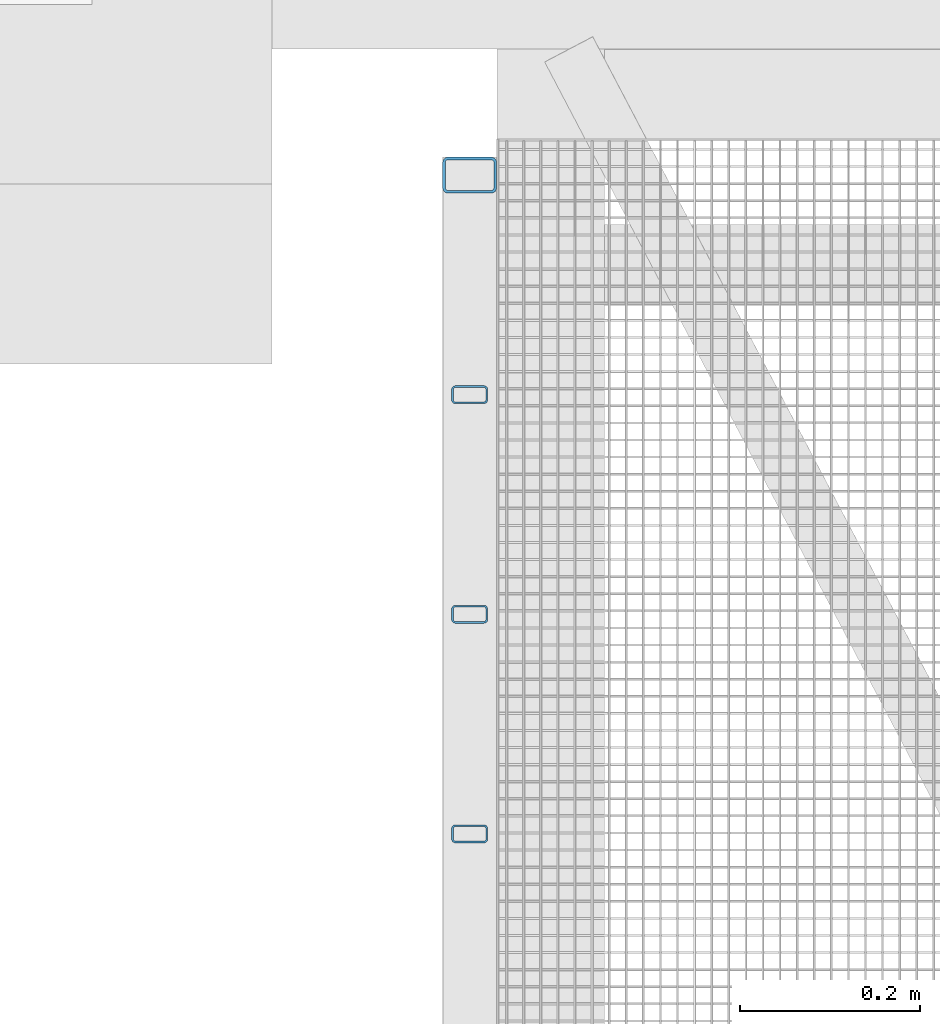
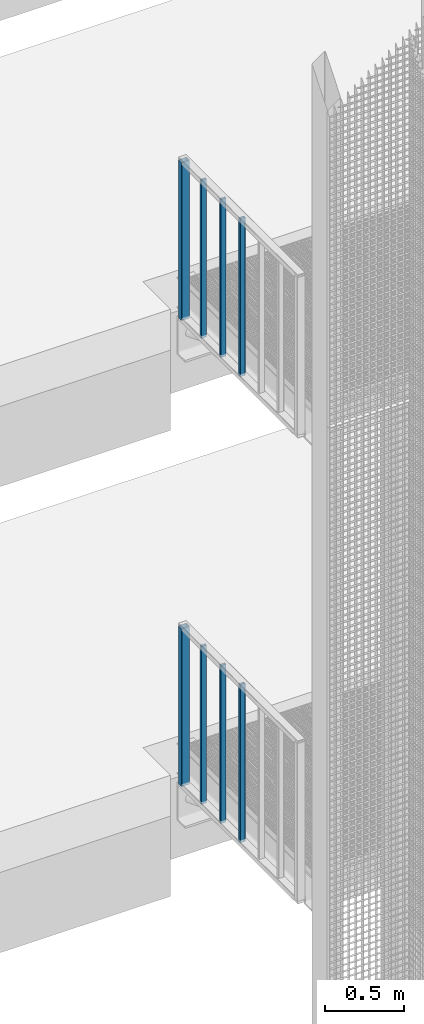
# One storey, part 57 of 1183: 8 columns, 8 elements without a shape of their own.
"""IFC2X3 building model written with IfcOpenShell, lengths in millimetres."""

from ifc_helpers import new_model, si_unit, frame, origin_with_axes, origin_2d_with_axis, place, context, subcontext, project, spatial, hollow_rectangle, extrude, material, type_object, element, aggregate, save


model = new_model("IFC2X3")

# Units and contexts
model_context = context("Model", 3, precision=1e-05, world=origin_with_axes())
body_context = subcontext(model_context, "Body", "Model", "MODEL_VIEW")
ifc_project = project(units=[si_unit("LENGTHUNIT", "METRE", prefix="MILLI"), si_unit("AREAUNIT", "SQUARE_METRE"), si_unit("VOLUMEUNIT", "CUBIC_METRE"), si_unit("MASSUNIT", "GRAM", prefix="KILO"), si_unit("TIMEUNIT", "SECOND"), si_unit("PLANEANGLEUNIT", "RADIAN"), si_unit("SOLIDANGLEUNIT", "STERADIAN"), si_unit("THERMODYNAMICTEMPERATUREUNIT", "DEGREE_CELSIUS"), si_unit("LUMINOUSINTENSITYUNIT", "LUMEN")], contexts=[model_context])

# Site, building, storey
site_placement = place(None, origin_with_axes())
site = spatial("IfcSite", under=ifc_project, at=site_placement, Name="Undefined", CompositionType="ELEMENT")
building_placement = place(site_placement, origin_with_axes())
building = spatial("IfcBuilding", under=site, at=building_placement, Name="Undefined", CompositionType="ELEMENT")
storey_placement = place(building_placement, origin_with_axes())
storey = spatial("IfcBuildingStorey", under=building, at=storey_placement, Name="Undefined", CompositionType="ELEMENT", Elevation=0.0)

# Assembly, column
assembly_1_placement = place(storey_placement, origin_with_axes())
assembly_1 = element("IfcElementAssembly", 1, at=assembly_1_placement, inside=storey, Name="STANCHION", AssemblyPlace="NOTDEFINED", PredefinedType="NOTDEFINED")
ifc_material = material(Name="Undefined/FE510D")
column_type_1 = type_object("IfcColumnType", Name="TUBE-R-40*20*2", PredefinedType="NOTDEFINED")
column_1_placement = place(assembly_1_placement, frame((20019.9350965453, 2415.85979616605, 9820.0), z_axis=(0.0, 0.0, 1.0), x_axis=(-0.999999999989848, 4.50600000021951e-06, 0.0)))
column_1 = element("IfcColumn", 2, at=column_1_placement, type_object=column_type_1, material=ifc_material, Name="STANCHION", context=body_context, shape_type="SweptSolid", body=[
    extrude(hollow_rectangle(XDim=20.0, YDim=40.0, WallThickness=2.0, InnerFilletRadius=2.0, OuterFilletRadius=4.0, at=origin_2d_with_axis()), frame((0.0, 0.0, 1219.99999999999), z_axis=(0.0, 0.0, -1.0), x_axis=(0.0, 1.0, 0.0)), (0.0, 0.0, 1.0), 1220.0),
])
aggregate(assembly_1, [column_1])

assembly_2_placement = place(storey_placement, origin_with_axes())
assembly_2 = element("IfcElementAssembly", 3, at=assembly_2_placement, inside=storey, Name="STANCHION", AssemblyPlace="NOTDEFINED", PredefinedType="NOTDEFINED")
column_2_placement = place(assembly_2_placement, frame((20019.9339963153, 2171.68979616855, 9820.0), z_axis=(0.0, 0.0, 1.0), x_axis=(-0.999999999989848, 4.50600000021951e-06, 0.0)))
column_2 = element("IfcColumn", 4, at=column_2_placement, type_object=column_type_1, material=ifc_material, Name="STANCHION", context=body_context, shape_type="SweptSolid", body=[
    extrude(hollow_rectangle(XDim=20.0, YDim=40.0, WallThickness=2.0, InnerFilletRadius=2.0, OuterFilletRadius=4.0, at=origin_2d_with_axis()), frame((0.0, 0.0, 1219.99999999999), z_axis=(0.0, 0.0, -1.0), x_axis=(0.0, 1.0, 0.0)), (0.0, 0.0, 1.0), 1220.0),
])
aggregate(assembly_2, [column_2])

assembly_3_placement = place(storey_placement, origin_with_axes())
assembly_3 = element("IfcElementAssembly", 5, at=assembly_3_placement, inside=storey, Name="STANCHION", AssemblyPlace="NOTDEFINED", PredefinedType="NOTDEFINED")
column_3_placement = place(assembly_3_placement, frame((20019.9328960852, 1927.51979617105, 9820.0), z_axis=(0.0, 0.0, 1.0), x_axis=(-0.999999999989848, 4.50600000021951e-06, 0.0)))
column_3 = element("IfcColumn", 6, at=column_3_placement, type_object=column_type_1, material=ifc_material, Name="STANCHION", context=body_context, shape_type="SweptSolid", body=[
    extrude(hollow_rectangle(XDim=20.0, YDim=40.0, WallThickness=2.0, InnerFilletRadius=2.0, OuterFilletRadius=4.0, at=origin_2d_with_axis()), frame((0.0, 0.0, 1219.99999999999), z_axis=(0.0, 0.0, -1.0), x_axis=(0.0, 1.0, 0.0)), (0.0, 0.0, 1.0), 1220.0),
])
aggregate(assembly_3, [column_3])

assembly_4_placement = place(storey_placement, origin_with_axes())
assembly_4 = element("IfcElementAssembly", 7, at=assembly_4_placement, inside=storey, Name="STANCHION", AssemblyPlace="NOTDEFINED", PredefinedType="NOTDEFINED")
column_4_placement = place(assembly_4_placement, frame((20019.9350965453, 2415.85979616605, 6220.0), z_axis=(0.0, 0.0, 1.0), x_axis=(-0.999999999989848, 4.50600000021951e-06, 0.0)))
column_4 = element("IfcColumn", 8, at=column_4_placement, type_object=column_type_1, material=ifc_material, Name="STANCHION", context=body_context, shape_type="SweptSolid", body=[
    extrude(hollow_rectangle(XDim=20.0, YDim=40.0, WallThickness=2.0, InnerFilletRadius=2.0, OuterFilletRadius=4.0, at=origin_2d_with_axis()), frame((0.0, 0.0, 1219.99999999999), z_axis=(0.0, 0.0, -1.0), x_axis=(0.0, 1.0, 0.0)), (0.0, 0.0, 1.0), 1220.0),
])
aggregate(assembly_4, [column_4])

assembly_5_placement = place(storey_placement, origin_with_axes())
assembly_5 = element("IfcElementAssembly", 9, at=assembly_5_placement, inside=storey, Name="STANCHION", AssemblyPlace="NOTDEFINED", PredefinedType="NOTDEFINED")
column_5_placement = place(assembly_5_placement, frame((20019.9339963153, 2171.68979616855, 6220.0), z_axis=(0.0, 0.0, 1.0), x_axis=(-0.999999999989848, 4.50600000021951e-06, 0.0)))
column_5 = element("IfcColumn", 10, at=column_5_placement, type_object=column_type_1, material=ifc_material, Name="STANCHION", context=body_context, shape_type="SweptSolid", body=[
    extrude(hollow_rectangle(XDim=20.0, YDim=40.0, WallThickness=2.0, InnerFilletRadius=2.0, OuterFilletRadius=4.0, at=origin_2d_with_axis()), frame((0.0, 0.0, 1219.99999999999), z_axis=(0.0, 0.0, -1.0), x_axis=(0.0, 1.0, 0.0)), (0.0, 0.0, 1.0), 1220.0),
])
aggregate(assembly_5, [column_5])

assembly_6_placement = place(storey_placement, origin_with_axes())
assembly_6 = element("IfcElementAssembly", 11, at=assembly_6_placement, inside=storey, Name="STANCHION", AssemblyPlace="NOTDEFINED", PredefinedType="NOTDEFINED")
column_6_placement = place(assembly_6_placement, frame((20019.9328960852, 1927.51979617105, 6220.0), z_axis=(0.0, 0.0, 1.0), x_axis=(-0.999999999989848, 4.50600000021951e-06, 0.0)))
column_6 = element("IfcColumn", 12, at=column_6_placement, type_object=column_type_1, material=ifc_material, Name="STANCHION", context=body_context, shape_type="SweptSolid", body=[
    extrude(hollow_rectangle(XDim=20.0, YDim=40.0, WallThickness=2.0, InnerFilletRadius=2.0, OuterFilletRadius=4.0, at=origin_2d_with_axis()), frame((0.0, 0.0, 1219.99999999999), z_axis=(0.0, 0.0, -1.0), x_axis=(0.0, 1.0, 0.0)), (0.0, 0.0, 1.0), 1220.0),
])
aggregate(assembly_6, [column_6])

assembly_7_placement = place(storey_placement, origin_with_axes())
assembly_7 = element("IfcElementAssembly", 13, at=assembly_7_placement, inside=storey, Name="STANCHION", AssemblyPlace="NOTDEFINED", PredefinedType="NOTDEFINED")
column_type_2 = type_object("IfcColumnType", Name="TUBE-R-60*40*3", PredefinedType="NOTDEFINED")
column_7_placement = place(assembly_7_placement, frame((20019.9363465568, 2660.00840282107, 9820.0), z_axis=(0.0, 0.0, 1.0), x_axis=(-0.999999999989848, 4.50600000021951e-06, 0.0)))
column_7 = element("IfcColumn", 14, at=column_7_placement, type_object=column_type_2, material=ifc_material, Name="STANCHION", context=body_context, shape_type="SweptSolid", body=[
    extrude(hollow_rectangle(XDim=40.0, YDim=60.0, WallThickness=3.0, InnerFilletRadius=3.0, OuterFilletRadius=6.0, at=origin_2d_with_axis()), frame((0.0, 0.0, 1219.99999999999), z_axis=(0.0, 0.0, -1.0), x_axis=(0.0, 1.0, 0.0)), (0.0, 0.0, 1.0), 1220.0),
])
aggregate(assembly_7, [column_7])

assembly_8_placement = place(storey_placement, origin_with_axes())
assembly_8 = element("IfcElementAssembly", 15, at=assembly_8_placement, inside=storey, Name="STANCHION", AssemblyPlace="NOTDEFINED", PredefinedType="NOTDEFINED")
column_8_placement = place(assembly_8_placement, frame((20019.9363465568, 2660.00840282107, 6220.0), z_axis=(0.0, 0.0, 1.0), x_axis=(-0.999999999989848, 4.50600000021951e-06, 0.0)))
column_8 = element("IfcColumn", 16, at=column_8_placement, type_object=column_type_2, material=ifc_material, Name="STANCHION", context=body_context, shape_type="SweptSolid", body=[
    extrude(hollow_rectangle(XDim=40.0, YDim=60.0, WallThickness=3.0, InnerFilletRadius=3.0, OuterFilletRadius=6.0, at=origin_2d_with_axis()), frame((0.0, 0.0, 1219.99999999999), z_axis=(0.0, 0.0, -1.0), x_axis=(0.0, 1.0, 0.0)), (0.0, 0.0, 1.0), 1220.0),
])
aggregate(assembly_8, [column_8])

save(model, "model.ifc")
